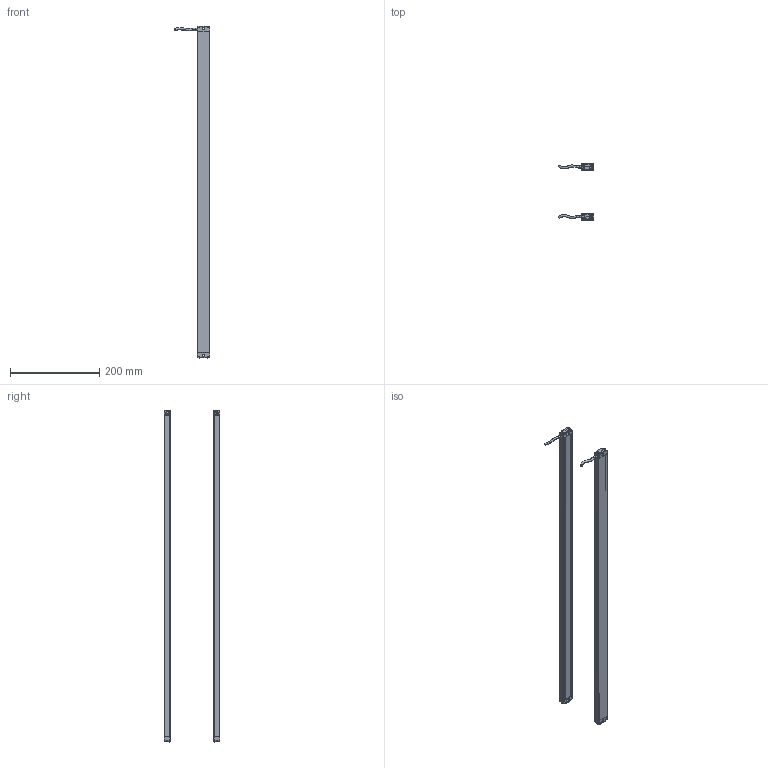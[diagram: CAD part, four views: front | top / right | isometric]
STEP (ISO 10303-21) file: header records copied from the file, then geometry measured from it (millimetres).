
FILE_DESCRIPTION(/* description */ (''),/* implementation_level */ '2;1');
FILE_NAME(/* name */ '1840（13x28w).stp',/* time_stamp */ '2020-07-14T20:11:25+08:00',/* author */ (''),/* organization */ (''),/* preprocessor_version */ 'ST-DEVELOPER v16',/* originating_system */ 'SIEMENS PLM Software NX 10.0',/* authorisation */ '');
FILE_SCHEMA (('AP203_CONFIGURATION_CONTROLLED_3D_DESIGN_OF_MECHANICAL_PARTS_AND_ASSEMBLIES_MIM_LF { 1 0 10303 403 2 1 2}'));
Length unit declared in the file: millimetre
Products named in the file (1): Admi58A03253m8at
Bounding box: 79.6 x 125.02 x 746 mm (x, y, z)
Volume: 217625.5 mm3; surface area: 289045.4 mm2
Topology: 10 solids, 10 shells, 760 faces, 2150 edges, 1419 vertices
Faces by surface type: plane 356, cylinder 312, torus 52, bspline 40
Entity records: 28395 total; most frequent: CARTESIAN_POINT 8859, ORIENTED_EDGE 4300, DIRECTION 3785, EDGE_CURVE 2150, VERTEX_POINT 1419, AXIS2_PLACEMENT_3D 1285, LINE 1215, VECTOR 1215
